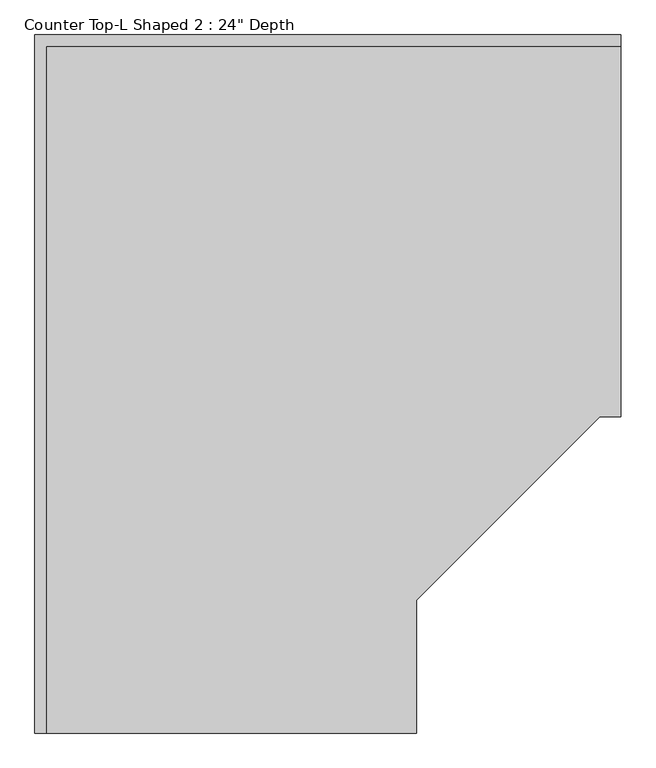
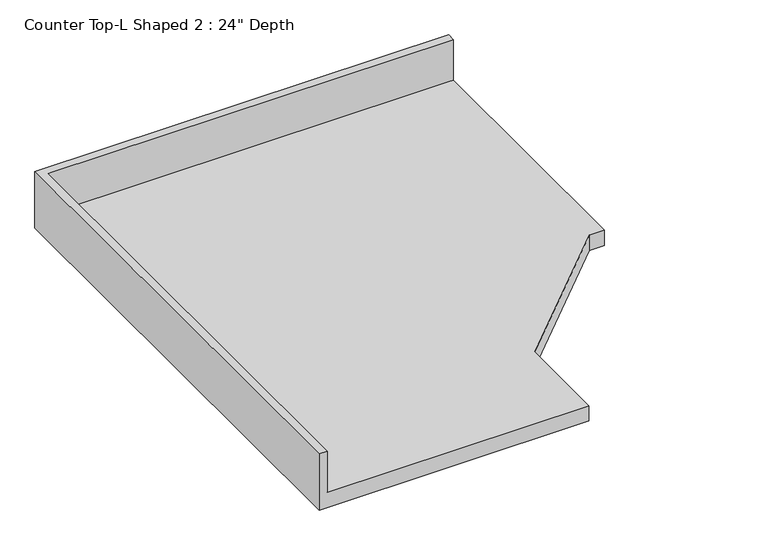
"""IFC4 building model written with IfcOpenShell, lengths in millimetres: furniture geometry."""

from ifc_helpers import new_model, si_unit, origin, place, context, project, spatial, faceted_brep, source, transform, mapped, element, save


def furniture_9c8c6759(model_context):
    return source(origin(), model_context, "Body", "Brep", [
        faceted_brep([(-565.4622951, -1160.5268212, 914.4), (-565.4622951, -939.8, 914.4), (-260.6622951, -635.0, 914.4), (-225.7372951, -635.0, 914.4), (-225.7372951, -19.05, 914.4), (-1181.4122951, -19.05, 914.4), (-1181.4122951, -1160.5268212, 914.4), (-225.7372951, 0.0, 876.3), (-225.7372951, -635.0, 876.3), (-260.6622951, -635.0, 876.3), (-565.4622951, -939.8, 876.3), (-565.4622951, -1160.5268212, 876.3), (-1200.4622951, -1160.5268212, 876.3), (-1200.4622951, 0.0, 876.3), (-1200.4622951, 0.0, 1016.0), (-225.7372951, 0.0, 1016.0), (-1200.4622951, -1160.5268212, 1016.0), (-1181.4122951, -1160.5268212, 1016.0), (-225.7372951, -19.05, 1016.0), (-1181.4122951, -19.05, 1016.0)], [[[0, 1, 2, 3, 4, 5, 6]], [[7, 8, 9, 10, 11, 12, 13]], [[7, 13, 14, 15]], [[13, 12, 16, 14]], [[16, 12, 11, 0, 6, 17]], [[1, 0, 11, 10]], [[2, 1, 10, 9]], [[3, 2, 9, 8]], [[8, 7, 15, 18, 4, 3]], [[14, 16, 17, 19, 18, 15]], [[4, 18, 19, 5]], [[19, 17, 6, 5]]]),
    ])


if __name__ == "__main__":
    model = new_model("IFC4")
    model_context = context("Model", 3, world=origin())
    ifc_project = project(units=[si_unit("LENGTHUNIT", "METRE", prefix="MILLI")], contexts=[model_context])
    site = spatial("IfcSite", under=ifc_project)
    building = spatial("IfcBuilding", under=site)
    placement = place(None, origin())
    furniture_shape = furniture_9c8c6759(model_context)
    element("IfcFurniture", 1, ObjectType="Counter Top-L Shaped 2 : 24\" Depth", at=placement, inside=building, context=model_context, shape_type="MappedRepresentation", body=[
        mapped(furniture_shape, transform((0.0, 0.0, 0.0), x_axis=(1.0, 0.0, 0.0), y_axis=(0.0, 1.0, 0.0), z_axis=(0.0, 0.0, 1.0))),
    ])
    save(model, "model.ifc")
